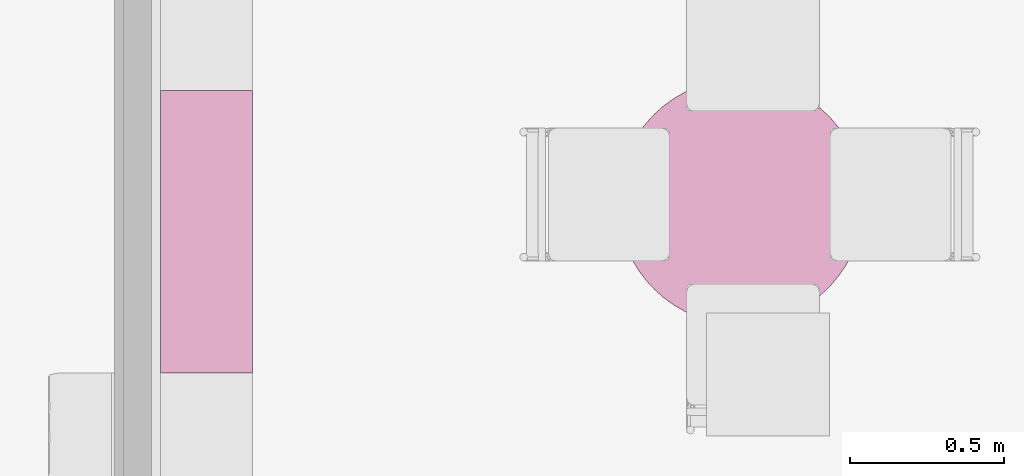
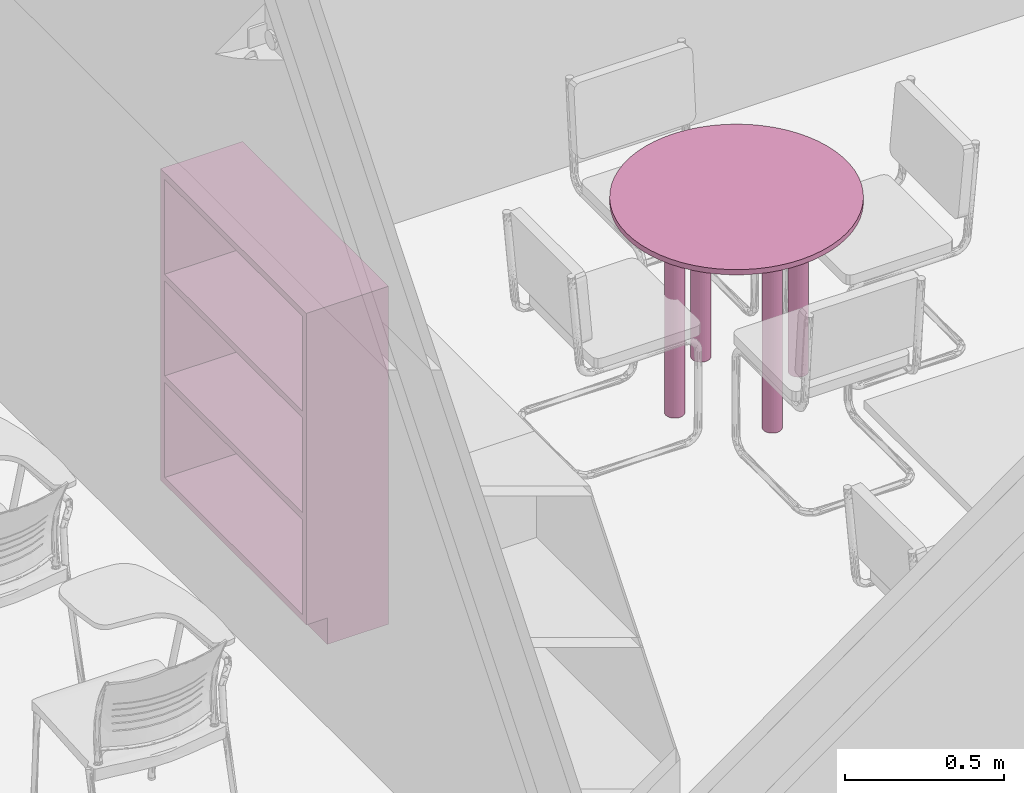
# One storey, part 76 of 155: 2 furnishings.
"""IFC2X3 building model written with IfcOpenShell, lengths in metres."""

from ifc_helpers import new_model, entity, si_unit, converted_unit, derived_unit, direction, frame, frame_2d, origin, origin_2d_with_axis, place, context, subcontext, project, spatial, polyline, rectangle, circle, outline, extrude, source, transform, mapped, material, type_object, type_shapes, element, save


model = new_model("IFC2X3")

# Units and contexts
model_context = context("Model", 3, precision=1e-05, world=origin(), true_north=direction((6.12303176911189e-17, 1.0)))
body_context = subcontext(model_context, "Body", "Model", "MODEL_VIEW")
ifc_project = project(units=[si_unit("LENGTHUNIT", "METRE"), si_unit("AREAUNIT", "SQUARE_METRE"), si_unit("VOLUMEUNIT", "CUBIC_METRE"), converted_unit("PLANEANGLEUNIT", "DEGREE", entity("IfcRatioMeasure", 0.0174532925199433), si_unit("PLANEANGLEUNIT", "RADIAN"), dimensions=[0, 0, 0, 0, 0, 0, 0]), si_unit("MASSUNIT", "GRAM", prefix="KILO"), derived_unit("MASSDENSITYUNIT", [(si_unit("MASSUNIT", "GRAM", prefix="KILO"), 1), (si_unit("LENGTHUNIT", "METRE"), -3)]), si_unit("TIMEUNIT", "SECOND"), si_unit("FREQUENCYUNIT", "HERTZ"), si_unit("THERMODYNAMICTEMPERATUREUNIT", "DEGREE_CELSIUS"), derived_unit("THERMALTRANSMITTANCEUNIT", [(si_unit("MASSUNIT", "GRAM", prefix="KILO"), 1), (si_unit("THERMODYNAMICTEMPERATUREUNIT", "KELVIN"), -1), (si_unit("TIMEUNIT", "SECOND"), -3)]), derived_unit("VOLUMETRICFLOWRATEUNIT", [(si_unit("LENGTHUNIT", "METRE"), 3), (si_unit("TIMEUNIT", "SECOND"), -1)]), si_unit("ELECTRICCURRENTUNIT", "AMPERE"), si_unit("ELECTRICVOLTAGEUNIT", "VOLT"), si_unit("POWERUNIT", "WATT"), si_unit("FORCEUNIT", "NEWTON", prefix="KILO"), si_unit("ILLUMINANCEUNIT", "LUX"), si_unit("LUMINOUSFLUXUNIT", "LUMEN"), si_unit("LUMINOUSINTENSITYUNIT", "CANDELA"), derived_unit("USERDEFINED", [(si_unit("MASSUNIT", "GRAM", prefix="KILO"), -1), (si_unit("LENGTHUNIT", "METRE"), -2), (si_unit("TIMEUNIT", "SECOND"), 3), (si_unit("LUMINOUSFLUXUNIT", "LUMEN"), 1)]), derived_unit("LINEARVELOCITYUNIT", [(si_unit("LENGTHUNIT", "METRE"), 1), (si_unit("TIMEUNIT", "SECOND"), -1)]), si_unit("PRESSUREUNIT", "PASCAL"), derived_unit("USERDEFINED", [(si_unit("LENGTHUNIT", "METRE"), -2), (si_unit("MASSUNIT", "GRAM", prefix="KILO"), 1), (si_unit("TIMEUNIT", "SECOND"), -2)])], contexts=[model_context])

# Site, building, storey, space
site_placement = place(None, frame((26.9889013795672, -17.5624287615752, 0.0)))
site = spatial("IfcSite", under=ifc_project, at=site_placement, Name="Default", CompositionType="ELEMENT")
building_placement = place(site_placement, origin())
building = spatial("IfcBuilding", under=site, at=building_placement, Name="C. C. L. Monsenhor Antônio Sampaio", CompositionType="ELEMENT")
storey_placement = place(building_placement, frame((0.0, 0.0, 1.19999999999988)))
storey = spatial("IfcBuildingStorey", under=building, at=storey_placement, Name="Nível 1.2", CompositionType="ELEMENT", Elevation=1.19999999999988)
space_placement = place(storey_placement, origin())
space = spatial("IfcSpace", under=storey, at=space_placement, Name="79", CompositionType="ELEMENT", InteriorOrExteriorSpace="INTERNAL")

# Furnishings
furniture_type_1 = type_object("IfcFurnitureType", Name="Shelving_Unit_-_Fully_Parametric_12010")
shared_shape_1 = source(origin(), body_context, "Body", "SweptSolid", [
    extrude(rectangle(XDim=0.298954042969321, YDim=0.868105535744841, at=origin_2d_with_axis()), frame((0.0, 0.149477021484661, 0.883599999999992), z_axis=(0.0, 0.0, 1.0), x_axis=(0.0, -1.0, 0.0)), (0.0, 0.0, 1.0), 0.0254),
    extrude(rectangle(XDim=0.298954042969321, YDim=0.868105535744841, at=origin_2d_with_axis()), frame((0.0, 0.149477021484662, 0.492599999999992), z_axis=(0.0, 0.0, 1.0), x_axis=(0.0, -1.0, 0.0)), (0.0, 0.0, 1.0), 0.0254),
    extrude(rectangle(XDim=0.298954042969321, YDim=0.868105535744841, at=frame_2d((0.0, 2.77555756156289e-17), x_axis=(1.0, 0.0))), frame((0.0, 0.149477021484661, 1.27459999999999), z_axis=(0.0, 0.0, 1.0), x_axis=(0.0, -1.0, 0.0)), (0.0, 0.0, 1.0), 0.0253999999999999),
    extrude(rectangle(XDim=0.298954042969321, YDim=0.868105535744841, at=origin_2d_with_axis()), frame((0.0, 0.149477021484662, 0.101599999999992), z_axis=(0.0, 0.0, 1.0), x_axis=(0.0, -1.0, 0.0)), (0.0, 0.0, 1.0), 0.0254),
    extrude(rectangle(XDim=0.00635000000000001, YDim=0.86810553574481, at=frame_2d((1.69135538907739e-17, 0.0), x_axis=(1.0, 0.0))), frame((0.0, 0.295779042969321, 0.126999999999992), z_axis=(0.0, 0.0, 1.0), x_axis=(0.0, -1.0, 0.0)), (0.0, 0.0, 1.0), 1.1476),
    extrude(rectangle(XDim=0.015875, YDim=0.868105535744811, at=origin_2d_with_axis()), frame((0.0, 0.0841374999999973, 0.0), z_axis=(0.0, 0.0, 1.0), x_axis=(0.0, -1.0, 0.0)), (0.0, 0.0, 1.0), 0.101599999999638),
    extrude(outline(polyline([(-0.125051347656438, 0.365599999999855), (-0.125051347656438, -0.832799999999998), (0.17390269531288, -0.832799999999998), (0.17390269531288, 0.467200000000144), (-0.0488513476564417, 0.467200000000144), (-0.0488513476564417, 0.365599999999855), (-0.125051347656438, 0.365599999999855)])), frame((-0.459452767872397, 0.125051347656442, 0.467199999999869), z_axis=(-1.0, 0.0, 0.0), x_axis=(0.0, 1.0, 0.0)), (0.0, 0.0, -1.0), 0.0254),
    extrude(outline(polyline([(-0.125051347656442, 0.365599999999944), (-0.125051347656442, -0.832799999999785), (0.173902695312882, -0.832799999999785), (0.173902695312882, 0.467199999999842), (-0.0488513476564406, 0.467199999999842), (-0.0488513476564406, 0.365599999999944), (-0.125051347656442, 0.365599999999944)])), frame((0.434052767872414, 0.12505134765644, 0.467200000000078), z_axis=(-1.0, 0.0, 0.0), x_axis=(0.0, 1.0, 0.0)), (0.0, 0.0, -1.0), 0.0254),
])
type_shapes(furniture_type_1, [shared_shape_1])
furnishing_1_placement = place(space_placement, frame((-6.14055229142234, -36.9390405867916, 0.0), z_axis=(0.0, 0.0, 1.0), x_axis=(0.0, -1.0, 0.0)))
element("IfcFurnishingElement", 1, at=furnishing_1_placement, inside=space, type_object=furniture_type_1, Name="Shelving_Unit_-_Fully_Parametric_12010:Shelving_Unit_-_Fully_Parametric_12010", ObjectType="Shelving_Unit_-_Fully_Parametric_12010", context=body_context, shape_type="MappedRepresentation", body=[
    mapped(shared_shape_1, transform((0.0, 0.0, 0.0), scale=1.0)),
])
ifc_material = material(Name="Wood - Glue-Laminated")
furniture_type_2 = type_object("IfcFurnitureType", Name="800x800mm", material=ifc_material)
shared_shape_2 = source(origin(), body_context, "Body", "SweptSolid", [
    extrude(circle(Radius=0.0325, at=frame_2d((-1.99870951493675e-19, -3.38395977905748e-17), x_axis=(1.0, 0.0))), frame((0.0, -0.225000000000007, 0.0)), (0.0, 0.0, 1.0), 0.730000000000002),
    extrude(circle(Radius=0.0325, at=frame_2d((0.0, -3.38395977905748e-17), x_axis=(1.0, 0.0))), frame((0.0, 0.224999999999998, 0.0)), (0.0, 0.0, 1.0), 0.730000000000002),
    extrude(circle(Radius=0.0325, at=frame_2d((0.0, -5.25051986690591e-17), x_axis=(1.0, 0.0))), frame((0.225000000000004, 0.0, 0.0)), (0.0, 0.0, 1.0), 0.730000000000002),
    extrude(circle(Radius=0.0325, at=frame_2d((0.0, -5.25051986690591e-17), x_axis=(1.0, 0.0))), frame((-0.224999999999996, 0.0, 0.0)), (0.0, 0.0, 1.0), 0.730000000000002),
    extrude(circle(Radius=0.4, at=frame_2d((-7.01885994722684e-18, -6.46217829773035e-16), x_axis=(1.0, 0.0))), frame((0.0, 0.0, 0.730000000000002), z_axis=(0.0, 0.0, 1.0), x_axis=(-1.0, 0.0, 0.0)), (0.0, 0.0, 1.0), 0.019999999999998),
])
type_shapes(furniture_type_2, [shared_shape_2])
furnishing_2_placement = place(space_placement, frame((-4.25372400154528, -36.8413374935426, 0.0)))
element("IfcFurnishingElement", 2, at=furnishing_2_placement, inside=space, type_object=furniture_type_2, material=ifc_material, Name="NBS_OffcTbls_RoundTable:800x800mm", ObjectType="800x800mm", context=body_context, shape_type="MappedRepresentation", body=[
    mapped(shared_shape_2, transform((0.0, 0.0, 0.0), scale=1.0)),
])

save(model, "model.ifc")
